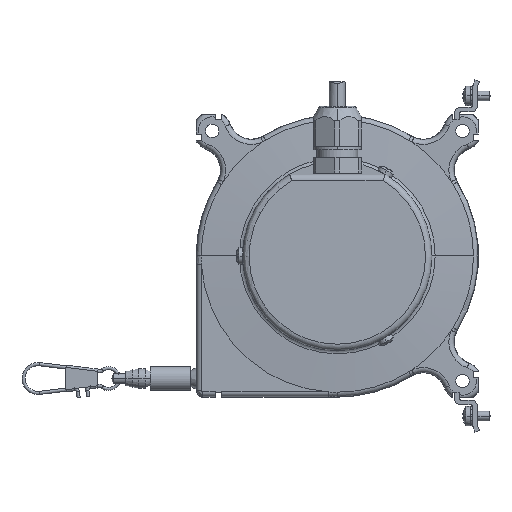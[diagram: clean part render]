
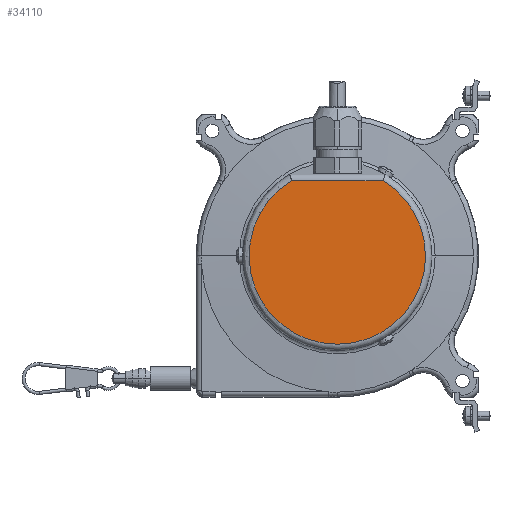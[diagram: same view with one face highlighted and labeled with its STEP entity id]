
A CAD part, left-side view. The second image highlights one B-rep face of the part: STEP entity #34110.
In plain terms, the highlighted planar face has unit normal (-1, 0, 0).
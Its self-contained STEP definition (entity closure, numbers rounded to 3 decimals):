
#1010=CARTESIAN_POINT('',(-79.7,0.,0.));
#1011=DIRECTION('',(-1.,0.,0.));
#1012=DIRECTION('',(0.,0.519,0.855));
#1013=AXIS2_PLACEMENT_3D('',#1010,#1011,#1012);
#1034=DIRECTION('',(0.,1.,0.));
#1035=VECTOR('',#1034,28.566);
#1036=CARTESIAN_POINT('',(-79.7,-14.283,23.5));
#1037=LINE('',#1036,#1035);
#31627=CARTESIAN_POINT('',(-79.7,14.283,23.5));
#31628=CARTESIAN_POINT('',(-79.7,-14.283,23.5));
#31629=VERTEX_POINT('',#31627);
#31630=VERTEX_POINT('',#31628);
#34100=CARTESIAN_POINT('',(-79.7,0.,0.));
#34101=DIRECTION('',(-1.,0.,0.));
#34102=DIRECTION('',(0.,0.,1.));
#34103=AXIS2_PLACEMENT_3D('',#34100,#34101,#34102);
#34104=PLANE('',#34103);
#34105=ORIENTED_EDGE('',*,*,#34076,.F.);
#34107=ORIENTED_EDGE('',*,*,#34106,.F.);
#34108=EDGE_LOOP('',(#34105,#34107));
#34109=FACE_OUTER_BOUND('',#34108,.F.);
#1014=CIRCLE('',#1013,27.5);
#34076=EDGE_CURVE('',#31629,#31630,#1014,.T.);
#34106=EDGE_CURVE('',#31630,#31629,#1037,.T.);
#34110=ADVANCED_FACE('',(#34109),#34104,.T.);
